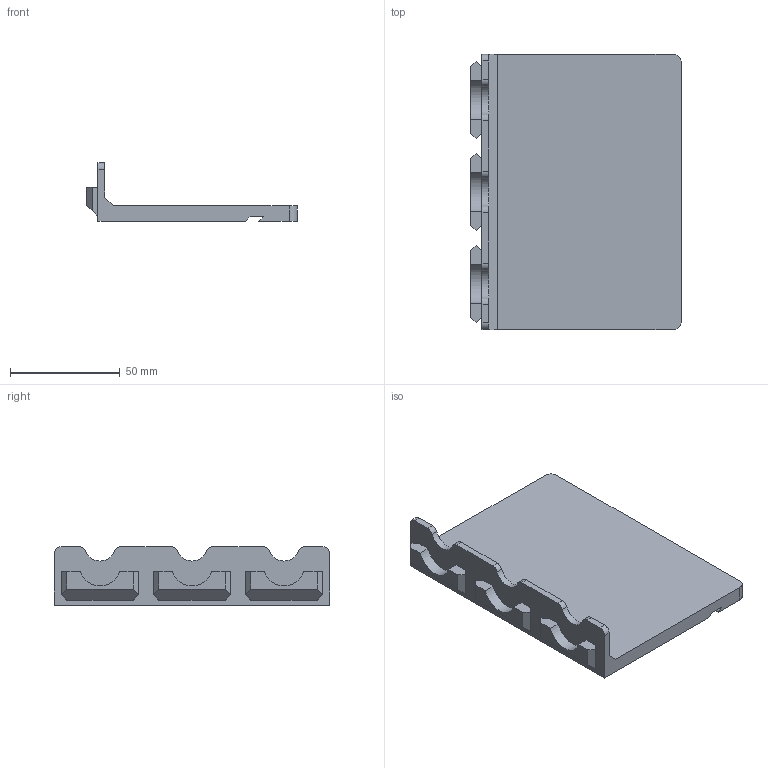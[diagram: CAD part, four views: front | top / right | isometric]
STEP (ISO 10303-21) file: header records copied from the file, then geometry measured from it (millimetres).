
FILE_DESCRIPTION(/* description */ ('','CAx-IF Rec.Pracs.---Representation and Presentation of Product Manufacturing Information (PMI)---4.0---2014-10-13'),/* implementation_level */ '2;1');
FILE_NAME(/* name */ 'Goews 3x Hanger Shelf 2x.step',/* time_stamp */ '2024-11-28T18:04:09-05:00',/* author */ (''),/* organization */ (''),/* preprocessor_version */ 'ST-DEVELOPER v20',/* originating_system */ 'Autodesk Translation Framework v13.20.0.188',/* authorisation */ '');
FILE_SCHEMA (('AP242_MANAGED_MODEL_BASED_3D_ENGINEERING_MIM_LF { 1 0 10303 442 1 1 4 }'));
Length unit declared in the file: millimetre
Products named in the file (1): Goews 3x Hanger Shelf 2x
Bounding box: 96.15 x 125.6 x 26.72 mm (x, y, z)
Volume: 90264.5 mm3; surface area: 32250.1 mm2
Topology: 1 solids, 1 shells, 65 faces, 174 edges, 114 vertices
Faces by surface type: plane 49, cylinder 16
Entity records: 2045 total; most frequent: CARTESIAN_POINT 354, ORIENTED_EDGE 348, DIRECTION 338, EDGE_CURVE 174, LINE 142, VECTOR 142, VERTEX_POINT 114, AXIS2_PLACEMENT_3D 98
